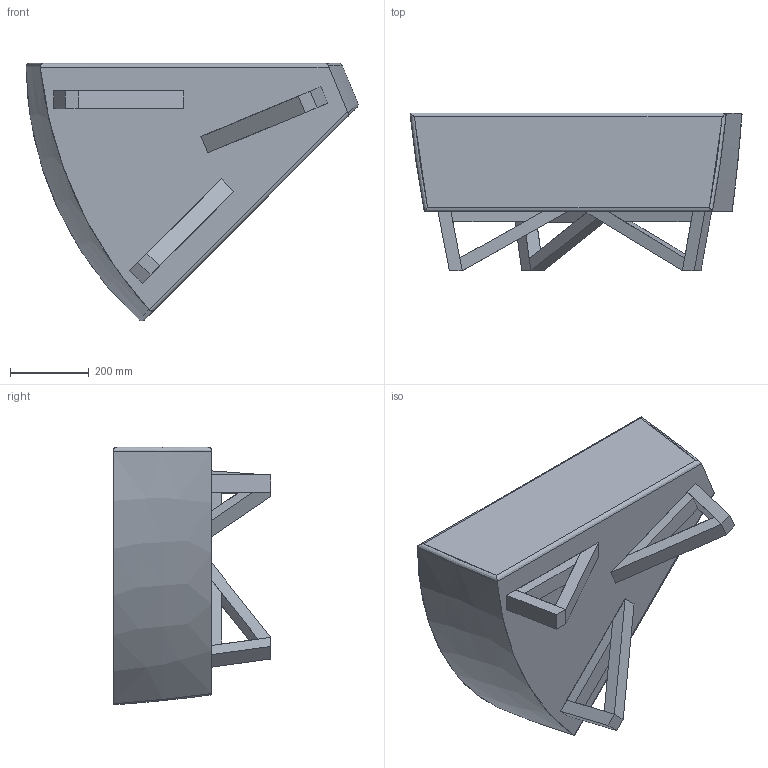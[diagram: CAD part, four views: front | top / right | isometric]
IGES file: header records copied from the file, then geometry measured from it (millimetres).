
Start section: SolidWorks IGES file using analytic representation for surfaces
Global section: file name: P:\3D CAD BLOCKS\us\45 DEGREE CORNER LINK UNIT\us - 45 DEGREE CORNER LINK UNIT.IGS; native system: SolidWorks 2012; preprocessor: SolidWorks 2012; author: adam; date: 140226.122657; units: millimetre
Bounding box: 842.46 x 400 x 653.72 mm (x, y, z)
Surface area: 2114426.5 mm2 (no closed solid volume)
Topology: 0 solids, 0 shells, 122 faces, 714 edges, 714 vertices
Faces by surface type: bspline 118, revolution 4
